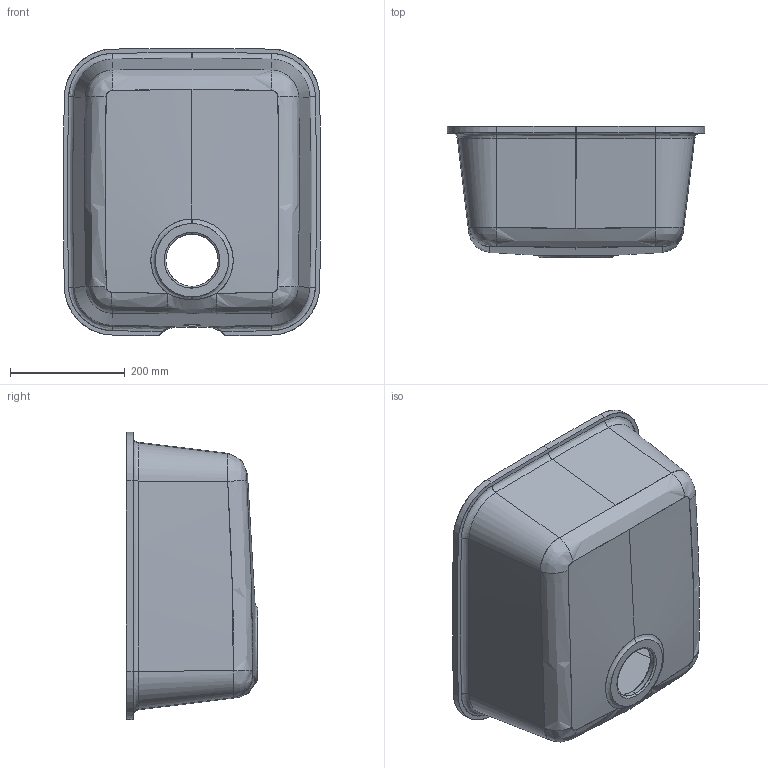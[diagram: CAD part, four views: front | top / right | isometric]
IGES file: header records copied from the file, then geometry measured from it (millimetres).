
Start section: SolidWorks IGES file using analytic representation for surfaces
Global section: file name: C:\Users\Carlos Parrado\Desktop\OFICINA_TÈCNICA\2. DOC_TREBALL_O.Tecnica\2. CUINA\2. DUPONT\SWEET 805\2. TECNICA\3D\DEFINITIU\805_ACABADA_OVFL.IGS; native system: SolidWorks 2014; preprocessor: SolidWorks 2014; author: Oficina Técnica; date: 200204.100735; units: millimetre
Bounding box: 449.07 x 229.17 x 501.25 mm (x, y, z)
Surface area: 961133.9 mm2 (no closed solid volume)
Topology: 0 solids, 0 shells, 88 faces, 1194 edges, 1194 vertices
Faces by surface type: bspline 47, revolution 41
